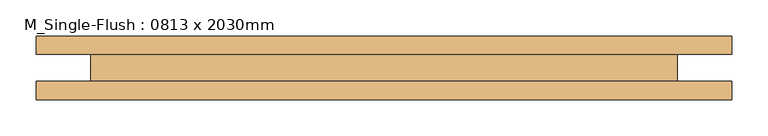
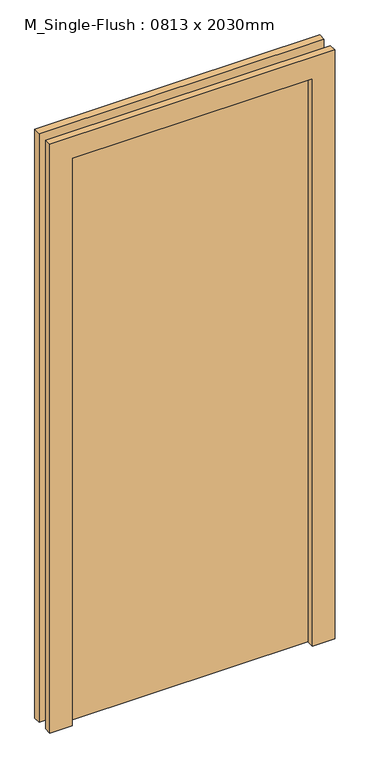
"""IFC4 building model written with IfcOpenShell, lengths in millimetres: door geometry, M_Single-Flush : 0813 x 2030mm."""

from ifc_helpers import new_model, si_unit, frame, origin, origin_with_axes, place, context, project, spatial, polyline, outline, extrude, source, transform, mapped, element, save


def m_single_flush_0813_x_2030mm_dc5b1935(model_context):
    return source(origin(), model_context, "Body", "SweptSolid", [
        extrude(outline(polyline([(2106.0, -482.5), (0.0, -482.5), (0.0, -406.5), (2030.0, -406.5), (2030.0, 406.5), (0.0, 406.5), (0.0, 482.5), (2106.0, 482.5), (2106.0, -482.5)])), frame((0.0, -44.0, 0.0), z_axis=(0.0, 1.0, 0.0), x_axis=(0.0, 0.0, 1.0)), (0.0, 0.0, 1.0), 25.0),
        extrude(outline(polyline([(2106.0, 482.5), (2106.0, -482.5), (0.0, -482.5), (0.0, -406.5), (2030.0, -406.5), (2030.0, 406.5), (0.0, 406.5), (0.0, 482.5), (2106.0, 482.5)])), frame((0.0, 19.0, 0.0), z_axis=(0.0, 1.0, 0.0), x_axis=(0.0, 0.0, 1.0)), (0.0, 0.0, 1.0), 25.0),
        extrude(outline(polyline([(406.5, 32.0), (406.5, -19.0), (-406.5, -19.0), (-406.5, 32.0), (406.5, 32.0)])), origin_with_axes(), (0.0, 0.0, 1.0), 2030.0),
    ])


if __name__ == "__main__":
    model = new_model("IFC4")
    model_context = context("Model", 3, world=origin())
    ifc_project = project(units=[si_unit("LENGTHUNIT", "METRE", prefix="MILLI")], contexts=[model_context])
    site = spatial("IfcSite", under=ifc_project)
    building = spatial("IfcBuilding", under=site)
    placement = place(None, origin())
    m_single_flush_0813_x_2030mm_shape = m_single_flush_0813_x_2030mm_dc5b1935(model_context)
    element("IfcDoor", 1, ObjectType="M_Single-Flush : 0813 x 2030mm", at=placement, inside=building, context=model_context, shape_type="MappedRepresentation", body=[
        mapped(m_single_flush_0813_x_2030mm_shape, transform((0.0, 0.0, 0.0), x_axis=(1.0, 0.0, 0.0), y_axis=(0.0, 1.0, 0.0), z_axis=(0.0, 0.0, 1.0))),
    ])
    save(model, "model.ifc")
